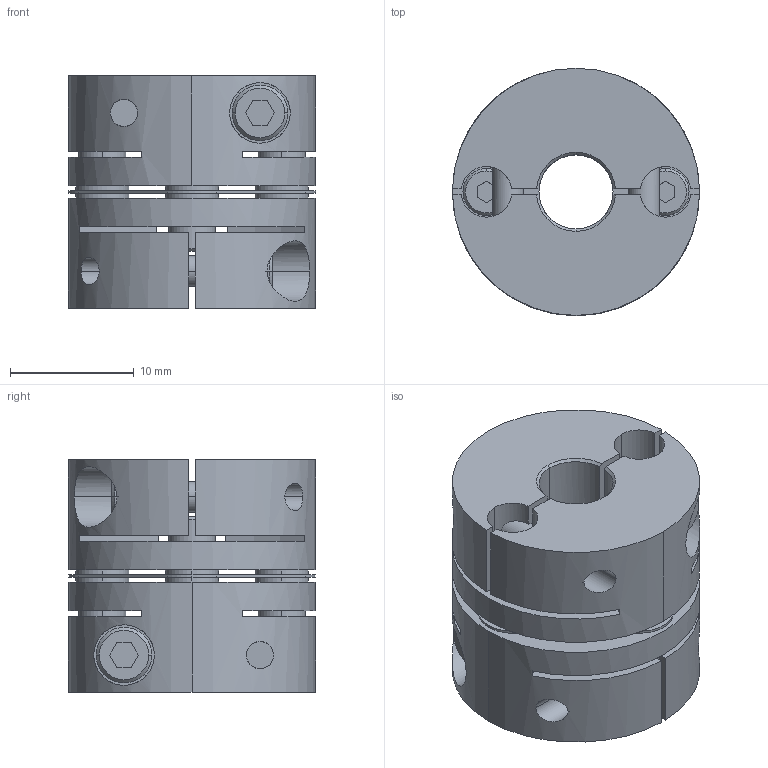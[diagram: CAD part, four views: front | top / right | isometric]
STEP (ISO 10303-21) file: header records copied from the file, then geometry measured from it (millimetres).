
FILE_DESCRIPTION((''),'2;1');
FILE_NAME('LAS-20C-6×6.35.stp','2014-02-05T09:31:59',(''),(''),'AutoCAD STEP 2000i','AutoCAD 2000i',', , ');
FILE_SCHEMA(('CONFIG_CONTROL_DESIGN'));
Length unit declared in the file: millimetre
Products named in the file (5): LAS-20C-4×4; 忣兜1; LA-2002-D04-1; LA-2002-D04; LAS20-ITA
Assembly tree (4 placements, depth 2):
  LAS-20C-4×4
    忣兜1
    LA-2002-D04-1
    LA-2002-D04
    LAS20-ITA
Bounding box: 20 x 20 x 18.8 mm (x, y, z)
Volume: 4483 mm3; surface area: 4527.8 mm2
Topology: 1 solids, 1 shells, 236 faces, 624 edges, 408 vertices
Faces by surface type: plane 112, cylinder 96, cone 28
Entity records: 8203 total; most frequent: CARTESIAN_POINT 2009, DIRECTION 1302, ORIENTED_EDGE 1248, EDGE_CURVE 624, AXIS2_PLACEMENT_3D 477, VERTEX_POINT 408, VECTOR 348, LINE 348
